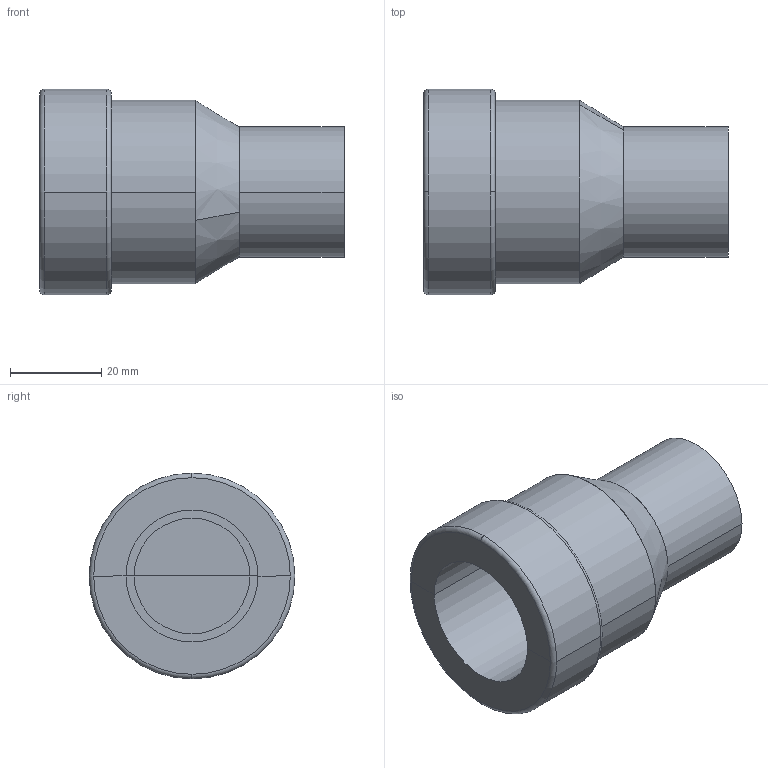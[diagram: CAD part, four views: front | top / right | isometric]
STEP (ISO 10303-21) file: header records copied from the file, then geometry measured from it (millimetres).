
FILE_DESCRIPTION (( 'STEP AP203' ), '1' );
FILE_NAME ('Viega_MegaPress_Coupling,Transition4813-4ZL - 1in.STEP', '2025-02-21T14:52:14', ( '' ), ( '' ), 'SwSTEP 2.0', 'SolidWorks 2020', '' );
FILE_SCHEMA (( 'CONFIG_CONTROL_DESIGN' ));
Length unit declared in the file: millimetre
Products named in the file (1): Viega_MegaPress_Coupling,Transition4813-4ZL - 1in
Bounding box: 66.85 x 45.2 x 45.2 mm (x, y, z)
Volume: 71426.6 mm3; surface area: 23997.6 mm2
Topology: 5 solids, 5 shells, 36 faces, 76 edges, 48 vertices
Faces by surface type: plane 16, cylinder 14, torus 4, cone 2
Entity records: 1065 total; most frequent: DIRECTION 202, CARTESIAN_POINT 161, ORIENTED_EDGE 152, AXIS2_PLACEMENT_3D 89, EDGE_CURVE 76, CIRCLE 52, VERTEX_POINT 48, EDGE_LOOP 38
